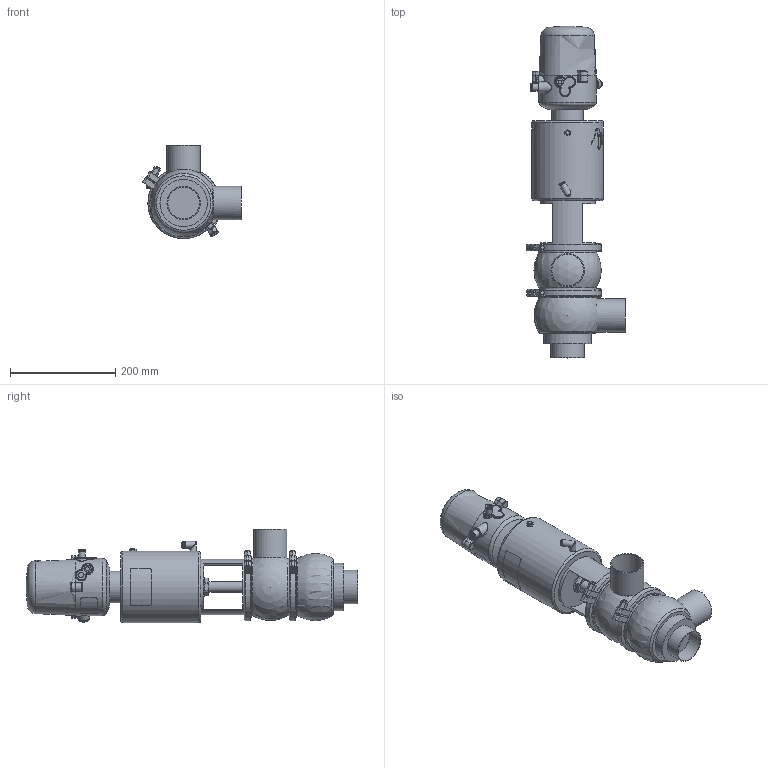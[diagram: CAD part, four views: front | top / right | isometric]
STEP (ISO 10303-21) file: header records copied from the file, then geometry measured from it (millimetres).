
FILE_DESCRIPTION (( 'STEP AP214' ), '1' );
FILE_NAME ('INNOVA K H W OD 2½ T3 AS NC & C-TOP S_10.240.16.0073.STEP', '2024-08-06T08:55:22', ( '' ), ( '' ), 'SwSTEP 2.0', 'SolidWorks 2023', '' );
FILE_SCHEMA (( 'AUTOMOTIVE_DESIGN' ));
Length unit declared in the file: millimetre
Products named in the file (8): 10.240.15.0014_T3 AS P0; INNOVA K H W OD 2½ T3 AS NC & C-TOP S_10.240.16.0073; 10.426.15.0001_C-TOP S - 1 EV; 10.240.15.0017_Estàndard; 10.240.15.0010_DN 065; 10.240.15.0006_OD 2½"; 10.240.15.0002_OD 2½"; 10.240.15.0001_DN 065
Assembly tree (8 placements, depth 2):
  INNOVA K H W OD 2½ T3 AS NC & C-TOP S_10.240.16.0073
    10.240.15.0006_OD 2½"
    10.240.15.0002_OD 2½"
    10.240.15.0010_DN 065
    10.240.15.0014_T3 AS P0
    10.240.15.0017_Estàndard
    10.426.15.0001_C-TOP S - 1 EV
    10.240.15.0001_DN 065  x2
Bounding box: 188.15 x 631.5 x 178 mm (x, y, z)
Volume: 5959435.3 mm3; surface area: 465082.6 mm2
Topology: 8 solids, 8 shells, 1172 faces, 2834 edges, 1887 vertices
Faces by surface type: plane 410, cylinder 356, cone 201, bspline 160, torus 37, sphere 8
Full cylindrical faces by diameter (mm): 0.371 x17, 0.512 x16, 0.658 x16, 0.795 x16, 0.94 x15, 1.098 x15, 1.241 x13, 1.382 x13, 1.523 x11, 1.669 x10, 2.201 x1, 4 x2, 5.5 x2, 6 x2, 6.15 x1, 8 x6, 8.5 x1, 10 x1, 10.5 x1, 11 x2, 12.5 x3, 13 x2, 13.5 x2, 16 x1, 17 x3, 20 x3, 20.5 x1, 22 x2, 31 x1, 34.5 x3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
Entity records: 58049 total; most frequent: CARTESIAN_POINT 27852, ORIENTED_EDGE 4510, DIRECTION 3647, EDGE_CURVE 2255, VERTEX_POINT 1605, EDGE_LOOP 1570, AXIS2_PLACEMENT_3D 1495, FACE_OUTER_BOUND 1331
